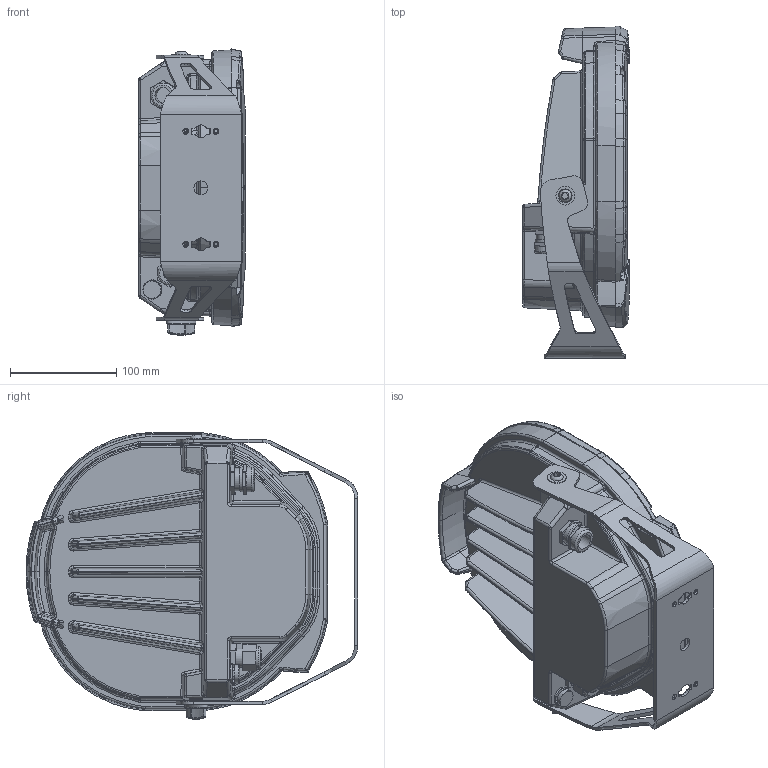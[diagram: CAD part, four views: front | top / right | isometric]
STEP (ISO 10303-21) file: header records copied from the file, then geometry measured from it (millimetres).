
FILE_DESCRIPTION(/* description */ ('','CAx-IF Rec.Pracs.---Representation and Presentation of Product Manufacturing Information (PMI)---4.0---2014-10-13'),/* implementation_level */ '2;1');
FILE_NAME(/* name */ '1701 - Archiled 200 RGBWA.stp',/* time_stamp */ '2026-06-23T09:39:05+02:00',/* author */ ('vilfredomariaricci'),/* organization */ (''),/* preprocessor_version */ 'ST-DEVELOPER v20',/* originating_system */ 'Autodesk Inventor 2025',/* authorisation */ '');
FILE_SCHEMA (('AP242_MANAGED_MODEL_BASED_3D_ENGINEERING_MIM_LF { 1 0 10303 442 1 1 4 }'));
Products named in the file (1): 1701 - Archiled 200 RGBWA
Bounding box: 100.3 x 312.78 x 269.83 mm (x, y, z)
Volume: 1684623.6 mm3; surface area: 819128.3 mm2
Topology: 64 solids, 65 shells, 3119 faces, 7336 edges, 4525 vertices
Faces by surface type: plane 1068, cylinder 824, bspline 671, cone 296, torus 174, sphere 86
Full cylindrical faces by diameter (mm): 1 x21, 2.459 x7, 3 x17, 3.1 x6, 3.2 x4, 3.242 x2, 3.5 x1, 4 x84, 4.134 x4, 4.5 x2, 4.6 x6, 4.76 x6, 5.4 x4, 6.1 x21, 6.5 x21, 6.647 x1, 7.9 x2, 8 x2, 8.5 x2, 10.376 x1, 10.5 x1, 11.7 x1, 12 x6, 13 x1, 15 x1, 17 x1, 17.5 x1, 17.6 x1, 18.2 x2, 20.376 x1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
Entity records: 153661 total; most frequent: CARTESIAN_POINT 80311, ORIENTED_EDGE 14572, DIRECTION 14523, EDGE_CURVE 7286, AXIS2_PLACEMENT_3D 5938, VERTEX_POINT 4525, EDGE_LOOP 3561, FACE_OUTER_BOUND 3115
